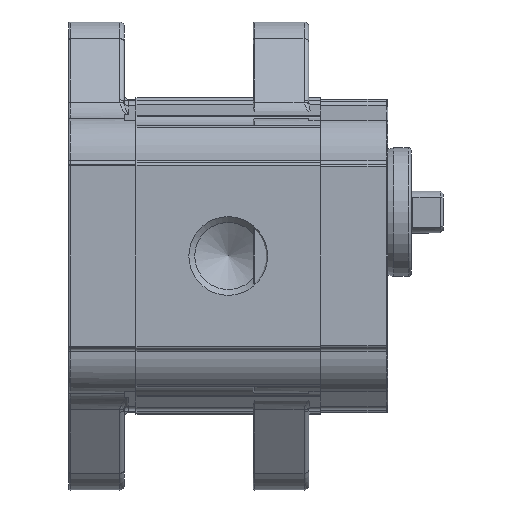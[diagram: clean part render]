
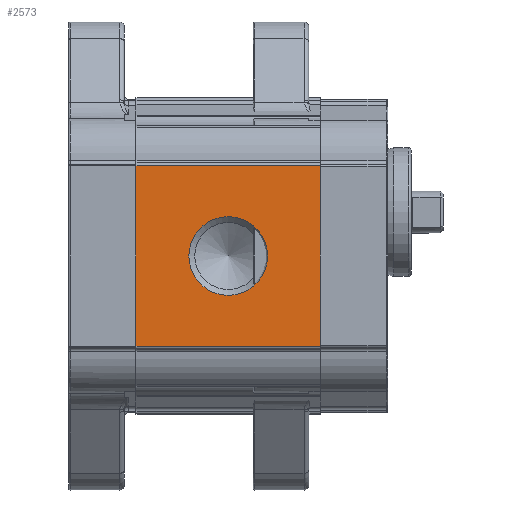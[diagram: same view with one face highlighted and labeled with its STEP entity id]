
A CAD part, left-side view. The second image highlights one B-rep face of the part: STEP entity #2573.
In plain terms, the highlighted planar face has unit normal (-1, 0, 0).
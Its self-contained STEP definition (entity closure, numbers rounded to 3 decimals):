
#2573 = ADVANCED_FACE( '', ( #5495, #5496 ), #5497, .T. );
#5495 = FACE_BOUND( '', #9991, .T. );
#5496 = FACE_OUTER_BOUND( '', #9992, .T. );
#5497 = PLANE( '', #9993 );
#9991 = EDGE_LOOP( '', ( #17864 ) );
#9992 = EDGE_LOOP( '', ( #17865, #17866, #17867, #17868 ) );
#9993 = AXIS2_PLACEMENT_3D( '', #17869, #17870, #17871 );
#17864 = ORIENTED_EDGE( '', *, *, #22119, .T. );
#17865 = ORIENTED_EDGE( '', *, *, #21948, .F. );
#17866 = ORIENTED_EDGE( '', *, *, #21085, .F. );
#17867 = ORIENTED_EDGE( '', *, *, #20162, .T. );
#17868 = ORIENTED_EDGE( '', *, *, #22706, .T. );
#17869 = CARTESIAN_POINT( '', ( -25., 31.5, 15.418 ) );
#17870 = DIRECTION( '', ( -1., 0., 0. ) );
#17871 = DIRECTION( '', ( 0., 0., 1. ) );
#20162 = EDGE_CURVE( '', #23834, #23832, #23835, .T. );
#21085 = EDGE_CURVE( '', #23834, #25412, #25414, .T. );
#21948 = EDGE_CURVE( '', #25412, #26702, #26703, .T. );
#22119 = EDGE_CURVE( '', #26925, #26925, #26926, .F. );
#22706 = EDGE_CURVE( '', #23832, #26702, #27664, .T. );
#23832 = VERTEX_POINT( '', #28988 );
#23834 = VERTEX_POINT( '', #28990 );
#23835 = LINE( '', #28991, #28992 );
#25412 = VERTEX_POINT( '', #31681 );
#25414 = LINE( '', #31683, #31684 );
#26702 = VERTEX_POINT( '', #34265 );
#26703 = LINE( '', #34266, #34267 );
#26925 = VERTEX_POINT( '', #34587 );
#26926 = CIRCLE( '', #34588, 6.723 );
#27664 = LINE( '', #36397, #36398 );
#28988 = CARTESIAN_POINT( '', ( -25., 31.5, -15.418 ) );
#28990 = CARTESIAN_POINT( '', ( -25., 31.5, 15.418 ) );
#28991 = CARTESIAN_POINT( '', ( -25., 31.5, 15.418 ) );
#28992 = VECTOR( '', #38449, 1000. );
#31681 = CARTESIAN_POINT( '', ( -25., 0., 15.418 ) );
#31683 = CARTESIAN_POINT( '', ( -25., 31.5, 15.418 ) );
#31684 = VECTOR( '', #39800, 1000. );
#34265 = CARTESIAN_POINT( '', ( -25., 0., -15.418 ) );
#34266 = CARTESIAN_POINT( '', ( -25., 0., 15.418 ) );
#34267 = VECTOR( '', #40886, 1000. );
#34587 = CARTESIAN_POINT( '', ( -25., 15.75, 6.723 ) );
#34588 = AXIS2_PLACEMENT_3D( '', #41094, #41095, #41096 );
#36397 = CARTESIAN_POINT( '', ( -25., 31.5, -15.418 ) );
#36398 = VECTOR( '', #41736, 1000. );
#38449 = DIRECTION( '', ( 0., 0., -1. ) );
#39800 = DIRECTION( '', ( 0., -1., 0. ) );
#40886 = DIRECTION( '', ( 0., 0., -1. ) );
#41094 = CARTESIAN_POINT( '', ( -25., 15.75, 0. ) );
#41095 = DIRECTION( '', ( -1., 0., 0. ) );
#41096 = DIRECTION( '', ( 0., 0., 1. ) );
#41736 = DIRECTION( '', ( 0., -1., 0. ) );
